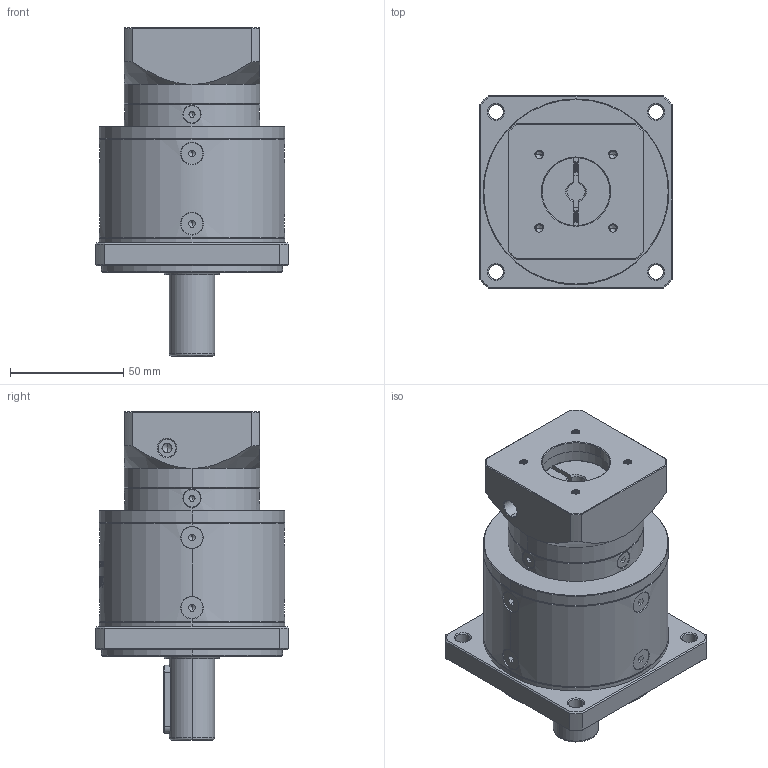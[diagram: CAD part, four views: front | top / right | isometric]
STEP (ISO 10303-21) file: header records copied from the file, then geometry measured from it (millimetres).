
FILE_DESCRIPTION (( 'STEP AP214' ), '1' );
FILE_NAME ('ZF80-D20-L2-8-30-46-M4.step', '2022-05-08T09:23:45', ( '' ), ( 'Microsoft' ), 'SwSTEP 2.0', 'SolidWorks 2016', '' );
FILE_SCHEMA (( 'AUTOMOTIVE_DESIGN' ));
Length unit declared in the file: millimetre
Products named in the file (1): ZF80-D20-L2-8-30-46-M4
Bounding box: 85 x 85 x 145 mm (x, y, z)
Volume: 476640.7 mm3; surface area: 68399.1 mm2
Topology: 18 solids, 18 shells, 2003 faces, 5235 edges, 3328 vertices
Faces by surface type: plane 948, cylinder 393, bspline 328, cone 320, torus 14
Entity records: 105384 total; most frequent: CARTESIAN_POINT 37528, ORIENTED_EDGE 10394, DIRECTION 8299, EDGE_CURVE 5197, VERTEX_POINT 3328, VECTOR 2803, LINE 2803, AXIS2_PLACEMENT_3D 2748
